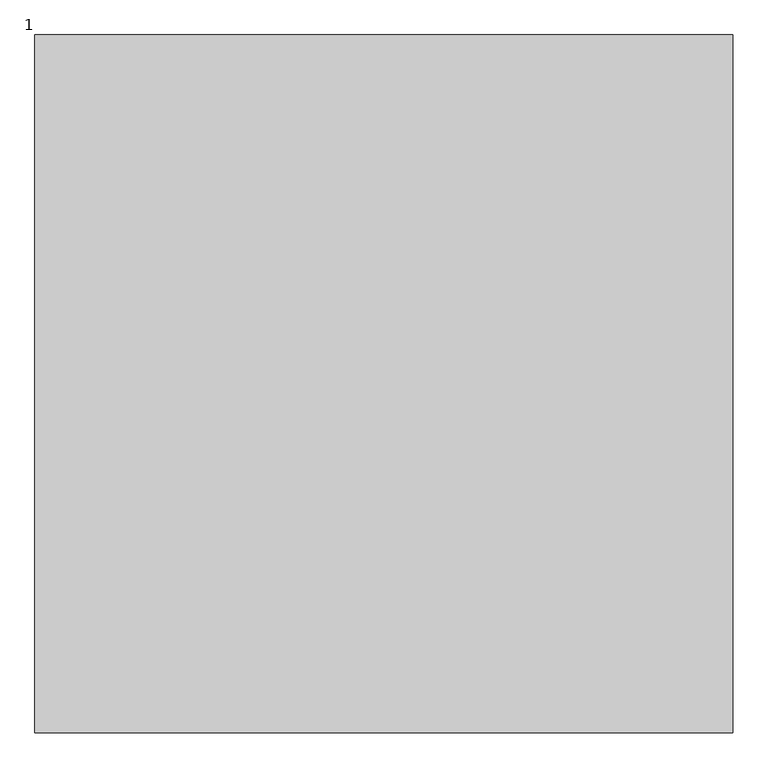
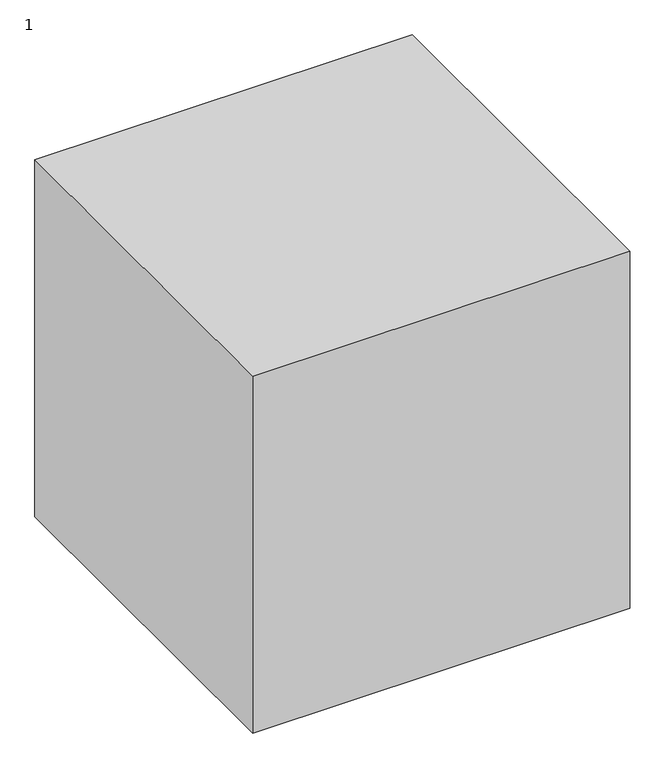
"""IFC4 building model written with IfcOpenShell, lengths in millimetres: proxy geometry, 12231111 : 1."""

from ifc_helpers import new_model, si_unit, origin, origin_with_axes, place, context, project, spatial, polyline, outline, extrude, source, transform, mapped, element, save


def proxy_1_b49bc99f(model_context):
    return source(origin(), model_context, "Body", "SweptSolid", [
        extrude(outline(polyline([(-20307.9756708, -8664.7705528), (-20307.9756708, -9664.7705528), (-21307.9756708, -9664.7705528), (-21307.9756708, -8664.7705528), (-20307.9756708, -8664.7705528)])), origin_with_axes(), (0.0, 0.0, 1.0), 1000.0),
    ])


if __name__ == "__main__":
    model = new_model("IFC4")
    model_context = context("Model", 3, world=origin())
    ifc_project = project(units=[si_unit("LENGTHUNIT", "METRE", prefix="MILLI")], contexts=[model_context])
    site = spatial("IfcSite", under=ifc_project)
    building = spatial("IfcBuilding", under=site)
    placement = place(None, origin())
    proxy_1_shape = proxy_1_b49bc99f(model_context)
    element("IfcBuildingElementProxy", 1, Name="12231111 : 1", ObjectType="12231111 : 1", at=placement, inside=building, context=model_context, shape_type="MappedRepresentation", body=[
        mapped(proxy_1_shape, transform((0.0, 0.0, 0.0), x_axis=(1.0, 0.0, 0.0), y_axis=(0.0, 1.0, 0.0), z_axis=(0.0, 0.0, 1.0))),
    ])
    save(model, "model.ifc")
